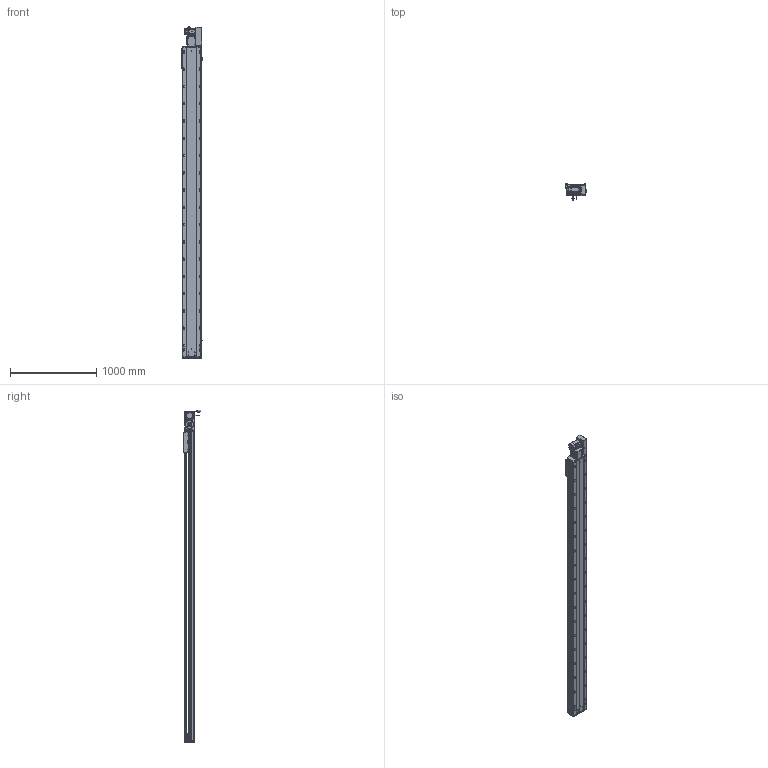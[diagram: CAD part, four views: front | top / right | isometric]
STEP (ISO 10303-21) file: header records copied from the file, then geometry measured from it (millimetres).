
FILE_DESCRIPTION (( 'STEP AP203' ), '1' );
FILE_NAME ('RY220-T-300-RK.SLDASM_3250.step', '2022-07-25T08:26:11', ( '' ), ( '' ), 'SwSTEP 2.0', 'SolidWorks 2016', '' );
FILE_SCHEMA (( 'CONFIG_CONTROL_DESIGN' ));
Length unit declared in the file: millimetre
Products named in the file (14): 滅袉蝶18-15; 怢湛750W_ECMA-CX0807ES; RY220-T菁釱-300_3250; RY220翋肮祭謫裔啣; RY220-T-湍謫欶(鍼踢); 110A-T-肮祭謫釱傷裔; RY220圉猾敕々湍臏賑輸; RY220-T-蛌殏萇儂假蚾啣(750W); RY220-俋离672覜茼んえ; RY220翋肮祭謫釱; 覜茼ん672; RY220-T-300-奻裔啣_3250; RY220-T-300-RK.SLDASM_3250; RY220-同步轮副支撑座6304×2
Assembly tree (18 placements, depth 2):
  RY220-T-300-RK.SLDASM_3250
    RY220-T菁釱-300_3250
    RY220翋肮祭謫釱
    覜茼ん672  x3
    RY220圉猾敕々湍臏賑輸
    RY220-T-300-奻裔啣_3250
    RY220-俋离672覜茼んえ
    滅袉蝶18-15  x3
    RY220翋肮祭謫裔啣  x2
    110A-T-肮祭謫釱傷裔
    怢湛750W_ECMA-CX0807ES
    RY220-T-湍謫欶(鍼踢)
    RY220-T-蛌殏萇儂假蚾啣(750W)
    RY220-同步轮副支撑座6304×2
Bounding box: 238.7 x 198.77 x 3845.24 mm (x, y, z)
Volume: 26817909.6 mm3; surface area: 8327128.1 mm2
Topology: 19 solids, 19 shells, 3088 faces, 8551 edges, 5344 vertices
Faces by surface type: cylinder 1540, plane 1069, cone 397, bspline 56, sphere 16, torus 10
Entity records: 103139 total; most frequent: CARTESIAN_POINT 29063, ORIENTED_EDGE 15290, DIRECTION 14820, EDGE_CURVE 7645, AXIS2_PLACEMENT_3D 5370, VERTEX_POINT 4968, LINE 4080, VECTOR 4080
